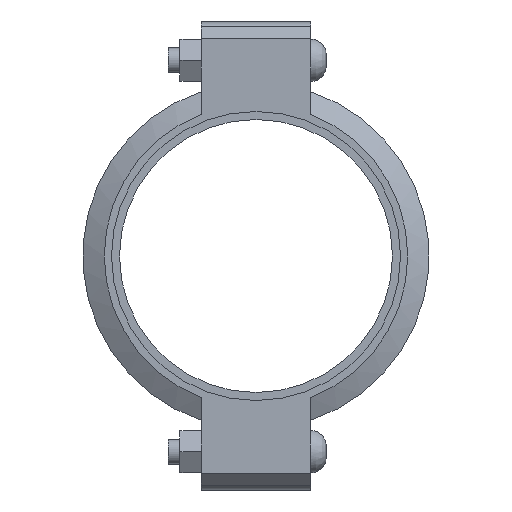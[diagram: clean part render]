
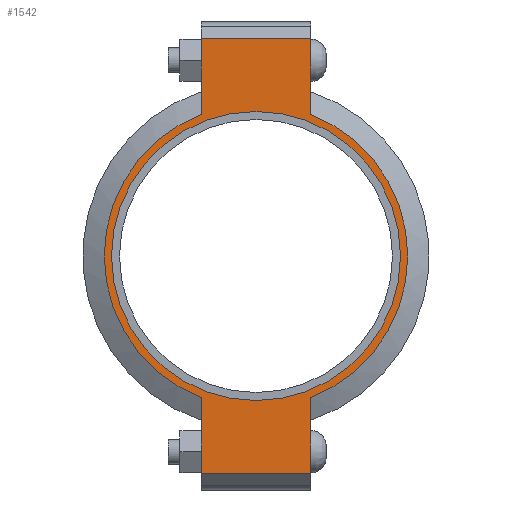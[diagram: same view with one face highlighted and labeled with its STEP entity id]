
A CAD part, left-side view. The second image highlights one B-rep face of the part: STEP entity #1542.
In plain terms, the highlighted planar face has unit normal (-1, 0, 0) as drawn and (0, 0, 1) by its records, which use the part's own axes.
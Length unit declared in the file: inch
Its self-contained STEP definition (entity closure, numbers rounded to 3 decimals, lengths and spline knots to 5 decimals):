
#166=LINE('',#2700,#259);
#174=LINE('',#2736,#267);
#181=LINE('',#2757,#274);
#190=LINE('',#2789,#283);
#191=LINE('',#2793,#284);
#192=LINE('',#2795,#285);
#259=VECTOR('',#2204,0.3937);
#267=VECTOR('',#2220,0.3937);
#274=VECTOR('',#2239,0.3937);
#283=VECTOR('',#2264,0.3937);
#284=VECTOR('',#2269,0.3937);
#285=VECTOR('',#2270,0.3937);
#341=FACE_BOUND('',#519,.T.);
#413=FACE_OUTER_BOUND('',#518,.T.);
#518=EDGE_LOOP('',(#1283,#1284,#1285,#1286,#1287,#1288,#1289,#1290));
#519=EDGE_LOOP('',(#1291));
#591=CIRCLE('',#1770,4.3125);
#617=CIRCLE('',#1829,4.53);
#618=CIRCLE('',#1830,4.53);
#683=VERTEX_POINT('',#2516);
#726=VERTEX_POINT('',#2697);
#727=VERTEX_POINT('',#2699);
#738=VERTEX_POINT('',#2731);
#739=VERTEX_POINT('',#2735);
#746=VERTEX_POINT('',#2754);
#747=VERTEX_POINT('',#2756);
#757=VERTEX_POINT('',#2792);
#758=VERTEX_POINT('',#2794);
#839=EDGE_CURVE('',#683,#683,#591,.T.);
#900=EDGE_CURVE('',#727,#726,#166,.T.);
#914=EDGE_CURVE('',#739,#738,#174,.T.);
#924=EDGE_CURVE('',#747,#746,#181,.T.);
#939=EDGE_CURVE('',#739,#726,#190,.T.);
#940=EDGE_CURVE('',#738,#747,#617,.T.);
#941=EDGE_CURVE('',#757,#746,#191,.T.);
#942=EDGE_CURVE('',#757,#758,#192,.T.);
#943=EDGE_CURVE('',#758,#727,#618,.T.);
#1283=ORIENTED_EDGE('',*,*,#939,.F.);
#1284=ORIENTED_EDGE('',*,*,#914,.T.);
#1285=ORIENTED_EDGE('',*,*,#940,.T.);
#1286=ORIENTED_EDGE('',*,*,#924,.T.);
#1287=ORIENTED_EDGE('',*,*,#941,.F.);
#1288=ORIENTED_EDGE('',*,*,#942,.T.);
#1289=ORIENTED_EDGE('',*,*,#943,.T.);
#1290=ORIENTED_EDGE('',*,*,#900,.T.);
#1291=ORIENTED_EDGE('',*,*,#839,.T.);
#1384=PLANE('',#1828);
#1542=ADVANCED_FACE('',(#413,#341),#1384,.T.);
#1770=AXIS2_PLACEMENT_3D('',#2518,#2080,#2081);
#1828=AXIS2_PLACEMENT_3D('',#2790,#2265,#2266);
#1829=AXIS2_PLACEMENT_3D('',#2791,#2267,#2268);
#1830=AXIS2_PLACEMENT_3D('',#2796,#2271,#2272);
#2080=DIRECTION('center_axis',(0.,0.,-1.));
#2081=DIRECTION('ref_axis',(1.,0.,0.));
#2204=DIRECTION('',(1.,0.,0.));
#2220=DIRECTION('',(-1.,0.,0.));
#2239=DIRECTION('',(-1.,0.,0.));
#2264=DIRECTION('',(0.,-1.,0.));
#2265=DIRECTION('center_axis',(0.,0.,1.));
#2266=DIRECTION('ref_axis',(-1.,0.,0.));
#2267=DIRECTION('center_axis',(0.,0.,1.));
#2268=DIRECTION('ref_axis',(1.,0.,0.));
#2269=DIRECTION('',(0.,1.,0.));
#2270=DIRECTION('',(1.,0.,0.));
#2271=DIRECTION('center_axis',(0.,0.,1.));
#2272=DIRECTION('ref_axis',(1.,0.,0.));
#2516=CARTESIAN_POINT('',(-4.3125,0.,1.16));
#2518=CARTESIAN_POINT('Origin',(0.,0.,1.16));
#2697=CARTESIAN_POINT('',(6.485,-1.63,1.16));
#2699=CARTESIAN_POINT('',(4.22658,-1.63,1.16));
#2700=CARTESIAN_POINT('',(6.985,-1.63,1.16));
#2731=CARTESIAN_POINT('',(4.22658,1.63,1.16));
#2735=CARTESIAN_POINT('',(6.485,1.63,1.16));
#2736=CARTESIAN_POINT('',(-6.985,1.63,1.16));
#2754=CARTESIAN_POINT('',(-6.485,1.63,1.16));
#2756=CARTESIAN_POINT('',(-4.22658,1.63,1.16));
#2757=CARTESIAN_POINT('',(-6.985,1.63,1.16));
#2789=CARTESIAN_POINT('',(6.485,-0.815,1.16));
#2790=CARTESIAN_POINT('Origin',(0.,0.,
1.16));
#2791=CARTESIAN_POINT('Origin',(0.,0.,1.16));
#2792=CARTESIAN_POINT('',(-6.485,-1.63,1.16));
#2793=CARTESIAN_POINT('',(-6.485,0.815,1.16));
#2794=CARTESIAN_POINT('',(-4.22658,-1.63,1.16));
#2795=CARTESIAN_POINT('',(6.985,-1.63,1.16));
#2796=CARTESIAN_POINT('Origin',(0.,0.,1.16));
